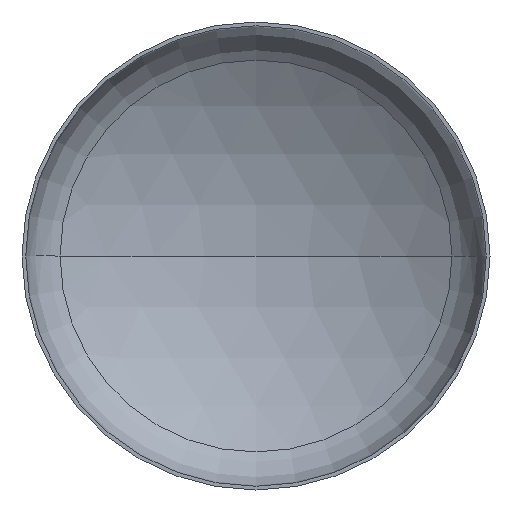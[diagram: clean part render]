
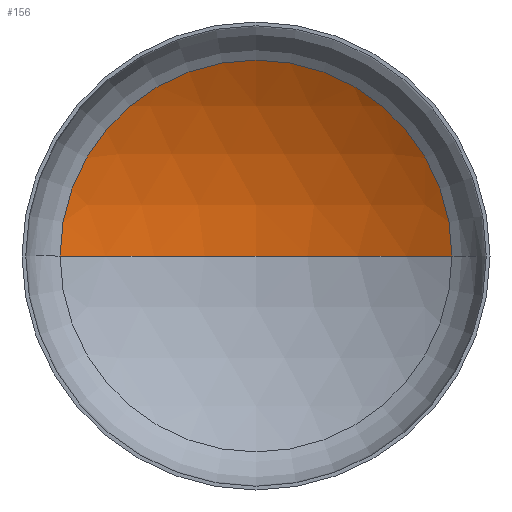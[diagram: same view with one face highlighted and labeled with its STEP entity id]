
A CAD part, front view. The second image highlights one B-rep face of the part: STEP entity #156.
In plain terms, the highlighted spherical face has radius 6000 mm.
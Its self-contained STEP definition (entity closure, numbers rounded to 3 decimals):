
#9 = CARTESIAN_POINT ( 'NONE',  ( 0., -4008.898, 0. ) ) ;
#20 = VERTEX_POINT ( 'NONE', #197 ) ;
#29 = ORIENTED_EDGE ( 'NONE', *, *, #196, .T. ) ;
#34 = ORIENTED_EDGE ( 'NONE', *, *, #198, .T. ) ;
#58 = VERTEX_POINT ( 'NONE', #325 ) ;
#79 = ORIENTED_EDGE ( 'NONE', *, *, #201, .F. ) ;
#91 = EDGE_LOOP ( 'NONE', ( #79, #34, #29 ) ) ;
#97 = AXIS2_PLACEMENT_3D ( 'NONE', #268, #243, #230 ) ;
#106 = AXIS2_PLACEMENT_3D ( 'NONE', #305, #382, #256 ) ;
#115 = CIRCLE ( 'NONE', #106, 6000. ) ;
#119 = AXIS2_PLACEMENT_3D ( 'NONE', #385, #259, #404 ) ;
#151 = AXIS2_PLACEMENT_3D ( 'NONE', #9, #271, #267 ) ;
#156 = ADVANCED_FACE ( 'NONE', ( #237 ), #401, .F. ) ;
#164 = CARTESIAN_POINT ( 'NONE',  ( 0., 1991.102, 0. ) ) ;
#196 = EDGE_CURVE ( 'NONE', #58, #20, #335, .T. ) ;
#197 = CARTESIAN_POINT ( 'NONE',  ( -3139.319, 1104.288, 0. ) ) ;
#198 = EDGE_CURVE ( 'NONE', #247, #58, #115, .T. ) ;
#201 = EDGE_CURVE ( 'NONE', #247, #20, #210, .T. ) ;
#210 = CIRCLE ( 'NONE', #97, 6000. ) ;
#230 = DIRECTION ( 'NONE',  ( 1., 0., 0. ) ) ;
#237 = FACE_OUTER_BOUND ( 'NONE', #91, .T. ) ;
#243 = DIRECTION ( 'NONE',  ( 0., 0., 1. ) ) ;
#247 = VERTEX_POINT ( 'NONE', #164 ) ;
#256 = DIRECTION ( 'NONE',  ( -1., 0., 0. ) ) ;
#259 = DIRECTION ( 'NONE',  ( 0., -1., 0. ) ) ;
#267 = DIRECTION ( 'NONE',  ( -1., 0., 0. ) ) ;
#268 = CARTESIAN_POINT ( 'NONE',  ( 0., -4008.898, 0. ) ) ;
#271 = DIRECTION ( 'NONE',  ( 0., 0., -1. ) ) ;
#305 = CARTESIAN_POINT ( 'NONE',  ( 0., -4008.898, 0. ) ) ;
#325 = CARTESIAN_POINT ( 'NONE',  ( 3139.319, 1104.288, 0. ) ) ;
#335 = CIRCLE ( 'NONE', #119, 3139.319 ) ;
#382 = DIRECTION ( 'NONE',  ( 0., 0., -1. ) ) ;
#385 = CARTESIAN_POINT ( 'NONE',  ( 0., 1104.288, 0. ) ) ;
#401 = SPHERICAL_SURFACE ( 'NONE', #151, 6000. ) ;
#404 = DIRECTION ( 'NONE',  ( 1., 0., 0. ) ) ;
